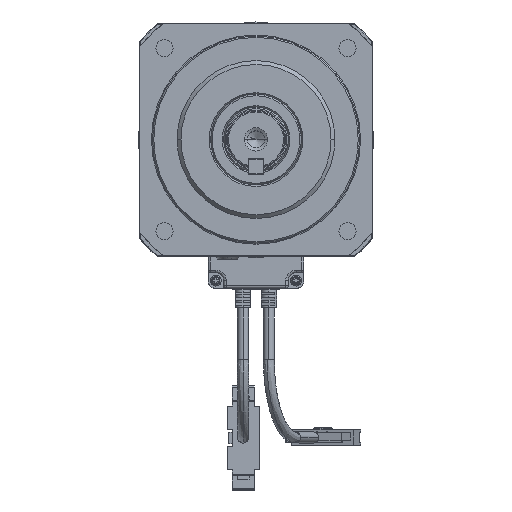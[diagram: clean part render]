
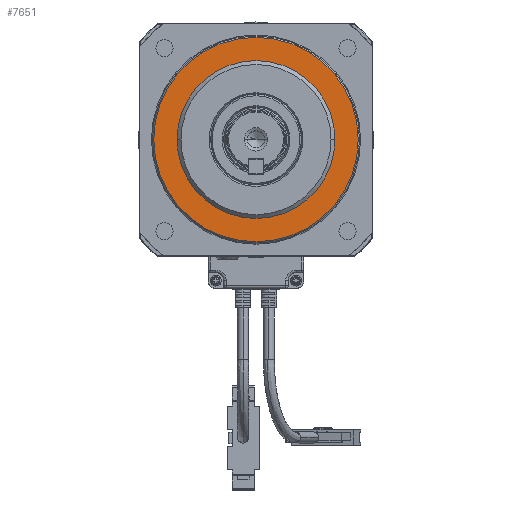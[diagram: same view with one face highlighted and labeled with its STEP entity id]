
A CAD part, top view. The second image highlights one B-rep face of the part: STEP entity #7651.
In plain terms, the highlighted planar face has unit normal (0, 0, 1).
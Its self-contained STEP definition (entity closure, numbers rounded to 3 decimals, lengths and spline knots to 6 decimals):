
#1166 = FACE_BOUND ( 'NONE', #31531, .T. ) ;
#1167 = FACE_OUTER_BOUND ( 'NONE', #31526, .T. ) ;
#2696 = VERTEX_POINT ( 'NONE', #20912 ) ;
#2951 = CARTESIAN_POINT ( 'NONE',  ( 0., 0., 0.009 ) ) ;
#2952 = DIRECTION ( 'NONE',  ( 0., 0., 1. ) ) ;
#2953 = DIRECTION ( 'NONE',  ( 1., 0., 0. ) ) ;
#4886 = VERTEX_POINT ( 'NONE', #20991 ) ;
#5693 = AXIS2_PLACEMENT_3D ( 'NONE', #41554, #41564, #41565 ) ;
#6141 = AXIS2_PLACEMENT_3D ( 'NONE', #37121, #37122, #37123 ) ;
#6181 = AXIS2_PLACEMENT_3D ( 'NONE', #27029, #27030, #27031 ) ;
#6182 = AXIS2_PLACEMENT_3D ( 'NONE', #27033, #27034, #27035 ) ;
#7651 = ADVANCED_FACE ( 'NONE', ( #1167, #1166 ), #41562, .T. ) ;
#16374 = VERTEX_POINT ( 'NONE', #36076 ) ;
#16454 = ORIENTED_EDGE ( 'NONE', *, *, #18071, .T. ) ;
#16456 = ORIENTED_EDGE ( 'NONE', *, *, #46580, .T. ) ;
#16459 = ORIENTED_EDGE ( 'NONE', *, *, #17916, .T. ) ;
#16462 = ORIENTED_EDGE ( 'NONE', *, *, #18070, .T. ) ;
#16561 = VERTEX_POINT ( 'NONE', #36184 ) ;
#16883 = CIRCLE ( 'NONE', #26638, 0.0395 ) ;
#17916 = EDGE_CURVE ( 'NONE', #16374, #16561, #40544, .T. ) ;
#18070 = EDGE_CURVE ( 'NONE', #16561, #16374, #40745, .T. ) ;
#18071 = EDGE_CURVE ( 'NONE', #2696, #4886, #40746, .T. ) ;
#20912 = CARTESIAN_POINT ( 'NONE',  ( -0.0395, 0., 0.009 ) ) ;
#20991 = CARTESIAN_POINT ( 'NONE',  ( 0.0395, 0., 0.009 ) ) ;
#26638 = AXIS2_PLACEMENT_3D ( 'NONE', #2951, #2952, #2953 ) ;
#27029 = CARTESIAN_POINT ( 'NONE',  ( 0., 0., 0.009 ) ) ;
#27030 = DIRECTION ( 'NONE',  ( 0., 0., -1. ) ) ;
#27031 = DIRECTION ( 'NONE',  ( -1., 0., 0. ) ) ;
#27033 = CARTESIAN_POINT ( 'NONE',  ( 0., 0., 0.009 ) ) ;
#27034 = DIRECTION ( 'NONE',  ( 0., 0., 1. ) ) ;
#27035 = DIRECTION ( 'NONE',  ( 1., 0., 0. ) ) ;
#31526 = EDGE_LOOP ( 'NONE', ( #16454, #16456 ) ) ;
#31531 = EDGE_LOOP ( 'NONE', ( #16459, #16462 ) ) ;
#36076 = CARTESIAN_POINT ( 'NONE',  ( -0.0305, 0., 0.009 ) ) ;
#36184 = CARTESIAN_POINT ( 'NONE',  ( 0.0305, 0., 0.009 ) ) ;
#37121 = CARTESIAN_POINT ( 'NONE',  ( 0., 0., 0.009 ) ) ;
#37122 = DIRECTION ( 'NONE',  ( 0., 0., -1. ) ) ;
#37123 = DIRECTION ( 'NONE',  ( -1., 0., 0. ) ) ;
#40544 = CIRCLE ( 'NONE', #6141, 0.0305 ) ;
#40745 = CIRCLE ( 'NONE', #6181, 0.0305 ) ;
#40746 = CIRCLE ( 'NONE', #6182, 0.0395 ) ;
#41554 = CARTESIAN_POINT ( 'NONE',  ( -0.04345, -0.04345, 0.009 ) ) ;
#41562 = PLANE ( 'NONE',  #5693 ) ;
#41564 = DIRECTION ( 'NONE',  ( 0., 0., 1. ) ) ;
#41565 = DIRECTION ( 'NONE',  ( 1., 0., 0. ) ) ;
#46580 = EDGE_CURVE ( 'NONE', #4886, #2696, #16883, .T. ) ;
